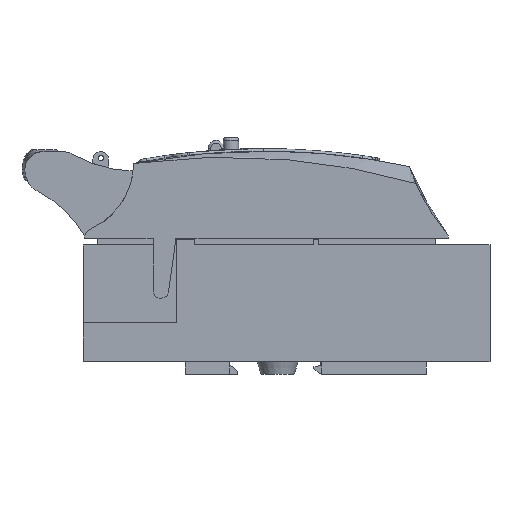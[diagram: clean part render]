
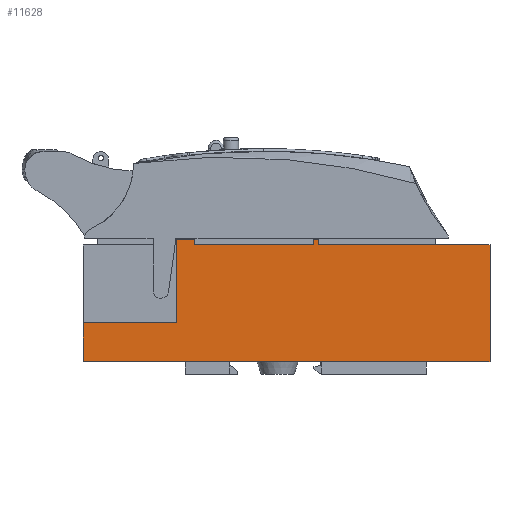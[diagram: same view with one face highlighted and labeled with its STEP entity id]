
A CAD part, front view. The second image highlights one B-rep face of the part: STEP entity #11628.
In plain terms, the highlighted planar face has unit normal (0, -1, 0).
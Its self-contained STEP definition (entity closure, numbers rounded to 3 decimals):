
#11628=ADVANCED_FACE('',(#13955),#12924,.F.);
#12924=PLANE('',#34006);
#13955=FACE_OUTER_BOUND('',#15236,.T.);
#15236=EDGE_LOOP('',(#17173,#17174,#17175,#17176,#17177,#17178,#17179,#17180,
#17181,#17182,#17183,#17184));
#17173=ORIENTED_EDGE('',*,*,#26569,.F.);
#17174=ORIENTED_EDGE('',*,*,#26791,.T.);
#17175=ORIENTED_EDGE('',*,*,#26793,.T.);
#17176=ORIENTED_EDGE('',*,*,#26769,.F.);
#17177=ORIENTED_EDGE('',*,*,#26626,.F.);
#17178=ORIENTED_EDGE('',*,*,#26653,.F.);
#17179=ORIENTED_EDGE('',*,*,#26658,.F.);
#17180=ORIENTED_EDGE('',*,*,#26655,.T.);
#17181=ORIENTED_EDGE('',*,*,#26604,.F.);
#17182=ORIENTED_EDGE('',*,*,#26794,.F.);
#17183=ORIENTED_EDGE('',*,*,#26648,.F.);
#17184=ORIENTED_EDGE('',*,*,#26637,.F.);
#24076=VERTEX_POINT('',#42741);
#24077=VERTEX_POINT('',#42743);
#24106=VERTEX_POINT('',#42806);
#24110=VERTEX_POINT('',#42814);
#24132=VERTEX_POINT('',#42861);
#24133=VERTEX_POINT('',#42863);
#24142=VERTEX_POINT('',#42884);
#24149=VERTEX_POINT('',#42905);
#24152=VERTEX_POINT('',#42913);
#24154=VERTEX_POINT('',#42919);
#24239=VERTEX_POINT('',#43138);
#24256=VERTEX_POINT('',#43185);
#26569=EDGE_CURVE('',#24076,#24077,#30197,.T.);
#26604=EDGE_CURVE('',#24110,#24106,#30226,.T.);
#26626=EDGE_CURVE('',#24132,#24133,#30248,.T.);
#26637=EDGE_CURVE('',#24077,#24142,#30259,.T.);
#26648=EDGE_CURVE('',#24142,#24149,#30270,.T.);
#26653=EDGE_CURVE('',#24152,#24132,#30275,.T.);
#26655=EDGE_CURVE('',#24154,#24106,#30277,.T.);
#26658=EDGE_CURVE('',#24154,#24152,#30280,.T.);
#26769=EDGE_CURVE('',#24133,#24239,#30389,.T.);
#26791=EDGE_CURVE('',#24076,#24256,#30411,.T.);
#26793=EDGE_CURVE('',#24256,#24239,#30413,.T.);
#26794=EDGE_CURVE('',#24149,#24110,#30414,.T.);
#30197=LINE('',#42742,#32106);
#30226=LINE('',#42815,#32135);
#30248=LINE('',#42862,#32157);
#30259=LINE('',#42883,#32168);
#30270=LINE('',#42904,#32179);
#30275=LINE('',#42914,#32184);
#30277=LINE('',#42918,#32186);
#30280=LINE('',#42923,#32189);
#30389=LINE('',#43143,#32298);
#30411=LINE('',#43186,#32320);
#30413=LINE('',#43189,#32322);
#30414=LINE('',#43190,#32323);
#32106=VECTOR('',#36350,1.);
#32135=VECTOR('',#36399,1.);
#32157=VECTOR('',#36427,1.);
#32168=VECTOR('',#36440,1.);
#32179=VECTOR('',#36457,1.);
#32184=VECTOR('',#36464,1.);
#32186=VECTOR('',#36468,1.);
#32189=VECTOR('',#36473,1.);
#32298=VECTOR('',#36630,1.);
#32320=VECTOR('',#36664,1.);
#32322=VECTOR('',#36668,1.);
#32323=VECTOR('',#36669,1.);
#34006=AXIS2_PLACEMENT_3D('',#43191,#36670,#36671);
#36350=DIRECTION('',(1.,0.,0.));
#36399=DIRECTION('',(1.,0.,0.));
#36427=DIRECTION('',(1.,0.,0.));
#36440=DIRECTION('',(0.,0.,1.));
#36457=DIRECTION('',(1.,0.,0.));
#36464=DIRECTION('',(0.,0.,-1.));
#36468=DIRECTION('',(0.,0.,-1.));
#36473=DIRECTION('',(1.,0.,0.));
#36630=DIRECTION('',(0.,0.,-1.));
#36664=DIRECTION('',(0.,0.,-1.));
#36668=DIRECTION('',(1.,0.,0.));
#36669=DIRECTION('',(0.,0.,-1.));
#36670=DIRECTION('',(0.,1.,0.));
#36671=DIRECTION('',(0.,0.,1.));
#42741=CARTESIAN_POINT('',(-75.,-44.5,-10.979));
#42742=CARTESIAN_POINT('',(-75.,-44.5,-10.979));
#42743=CARTESIAN_POINT('',(-39.,-44.5,-10.979));
#42806=CARTESIAN_POINT('',(13.85,-44.5,19.021));
#42814=CARTESIAN_POINT('',(-32.,-44.5,19.021));
#42815=CARTESIAN_POINT('',(-75.,-44.5,19.021));
#42861=CARTESIAN_POINT('',(15.85,-44.5,19.021));
#42862=CARTESIAN_POINT('',(-75.,-44.5,19.021));
#42863=CARTESIAN_POINT('',(82.,-44.5,19.021));
#42883=CARTESIAN_POINT('',(-39.,-44.5,19.021));
#42884=CARTESIAN_POINT('',(-39.,-44.5,21.021));
#42904=CARTESIAN_POINT('',(-39.,-44.5,21.021));
#42905=CARTESIAN_POINT('',(-32.,-44.5,21.021));
#42913=CARTESIAN_POINT('',(15.85,-44.5,21.021));
#42914=CARTESIAN_POINT('',(15.85,-44.5,21.021));
#42918=CARTESIAN_POINT('',(13.85,-44.5,21.021));
#42919=CARTESIAN_POINT('',(13.85,-44.5,21.021));
#42923=CARTESIAN_POINT('',(14.,-44.5,21.021));
#43138=CARTESIAN_POINT('',(82.,-44.5,-25.979));
#43143=CARTESIAN_POINT('',(82.,-44.5,19.021));
#43185=CARTESIAN_POINT('',(-75.,-44.5,-25.979));
#43186=CARTESIAN_POINT('',(-75.,-44.5,19.021));
#43189=CARTESIAN_POINT('',(-75.,-44.5,-25.979));
#43190=CARTESIAN_POINT('',(-32.,-44.5,21.021));
#43191=CARTESIAN_POINT('',(-75.,-44.5,19.021));
